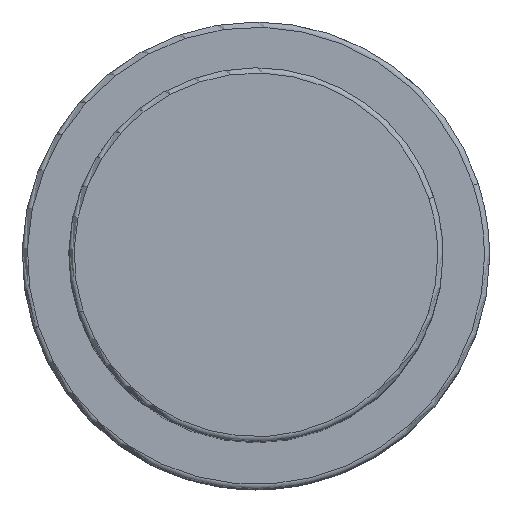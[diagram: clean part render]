
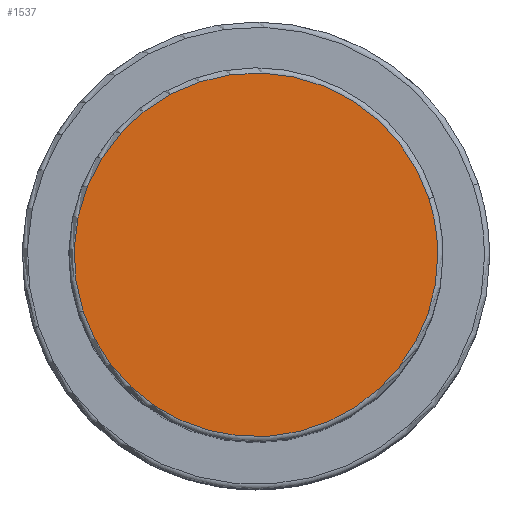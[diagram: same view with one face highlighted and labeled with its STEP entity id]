
A CAD part, top view. The second image highlights one B-rep face of the part: STEP entity #1537.
In plain terms, the highlighted planar face has unit normal (0, 0, 1).
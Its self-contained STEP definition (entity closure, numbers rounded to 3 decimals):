
#1470=CARTESIAN_POINT('',(16.643,5.408,78.0));
#1471=VERTEX_POINT('',#1470);
#1489=CARTESIAN_POINT('',(-16.643,-5.408,78.0));
#1490=VERTEX_POINT('',#1489);
#1498=CARTESIAN_POINT('',(0.0,0.0,78.0));
#1499=DIRECTION('',(0.0,0.0,1.0));
#1500=DIRECTION('',(1.0,0.0,0.0));
#1501=AXIS2_PLACEMENT_3D('',#1498,#1499,#1500);
#1502=CIRCLE('',#1501,17.5);
#1503=EDGE_CURVE('no 1654',#1471,#1490,#1502,.T.);
#1513=CARTESIAN_POINT('',(17.5,0.0,78.0));
#1514=VERTEX_POINT('',#1513);
#1515=CARTESIAN_POINT('',(0.0,0.0,78.0));
#1516=DIRECTION('',(0.0,0.0,1.0));
#1517=DIRECTION('',(1.0,0.0,0.0));
#1518=AXIS2_PLACEMENT_3D('',#1515,#1516,#1517);
#1519=CIRCLE('',#1518,17.5);
#1520=EDGE_CURVE('no 1663',#1514,#1471,#1519,.T.);
#1521=ORIENTED_EDGE('',*,*,#1520,.T.);
#1522=ORIENTED_EDGE('',*,*,#1503,.T.);
#1523=CARTESIAN_POINT('',(0.0,0.0,78.0));
#1524=DIRECTION('',(0.0,0.0,1.0));
#1525=DIRECTION('',(1.0,0.0,0.0));
#1526=AXIS2_PLACEMENT_3D('',#1523,#1524,#1525);
#1527=CIRCLE('',#1526,17.5);
#1528=EDGE_CURVE('no 1669',#1490,#1514,#1527,.T.);
#1529=ORIENTED_EDGE('',*,*,#1528,.T.);
#1530=EDGE_LOOP('',(#1521,#1522,#1529));
#1531=FACE_OUTER_BOUND('',#1530,.T.);
#1532=CARTESIAN_POINT('',(0.0,0.0,78.0));
#1533=DIRECTION('',(0.0,0.0,1.0));
#1534=DIRECTION('',(1.0,0.0,0.0));
#1535=AXIS2_PLACEMENT_3D('',#1532,#1533,#1534);
#1536=PLANE('',#1535);
#1537=ADVANCED_FACE('no 1656',(#1531),#1536,.T.);
